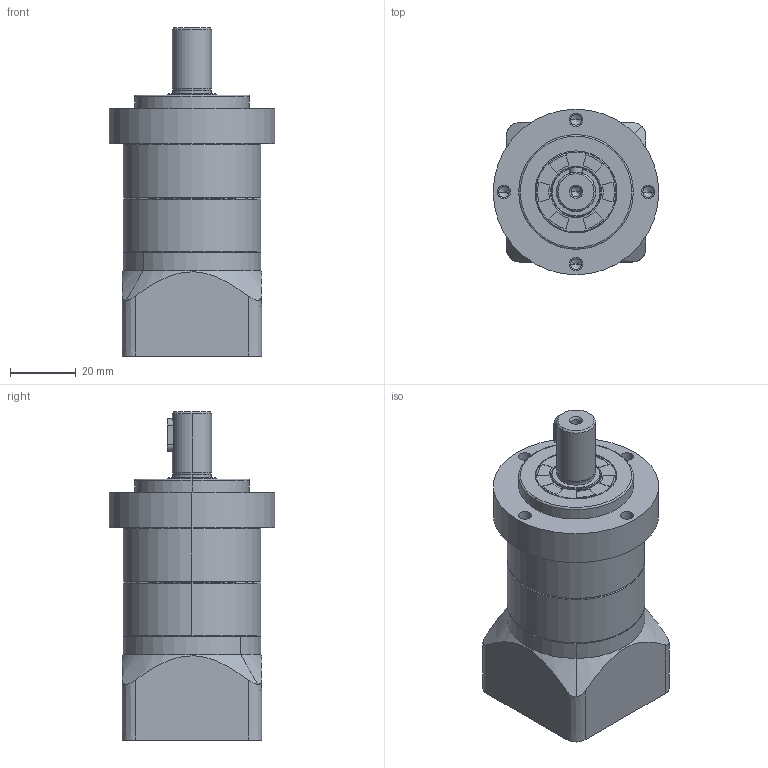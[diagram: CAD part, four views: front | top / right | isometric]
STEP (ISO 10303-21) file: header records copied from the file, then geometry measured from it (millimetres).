
FILE_DESCRIPTION (( 'STEP AP203' ), '1' );
FILE_NAME ('NA42-L2(8-30-45-M3).STEP', '2022-02-25T04:14:39', ( '' ), ( '' ), 'SwSTEP 2.0', 'SolidWorks 2016', '' );
FILE_SCHEMA (( 'CONFIG_CONTROL_DESIGN' ));
Length unit declared in the file: millimetre
Products named in the file (8): SN42; SN42-(30-45-M3); SN42-(12x20-4x10); NA42-(35x4-44-M4); NA42-L2(8-30-45-M3); SN42-(8); SN42-15x25x4; SN42-26x14x11-M4
Assembly tree (8 placements, depth 2):
  NA42-L2(8-30-45-M3)
    NA42-(35x4-44-M4)
    SN42-15x25x4
    SN42-(12x20-4x10)
    SN42  x2
    SN42-(30-45-M3)
    SN42-(8)
    SN42-26x14x11-M4
Bounding box: 50.5 x 50.5 x 100.1 mm (x, y, z)
Volume: 104993.7 mm3; surface area: 39555.8 mm2
Topology: 8 solids, 11 shells, 414 faces, 998 edges, 611 vertices
Faces by surface type: cylinder 202, plane 91, cone 82, bspline 37, torus 2
Entity records: 24073 total; most frequent: CARTESIAN_POINT 14425, ORIENTED_EDGE 1864, DIRECTION 1779, EDGE_CURVE 934, AXIS2_PLACEMENT_3D 703, VERTEX_POINT 587, EDGE_LOOP 456, ADVANCED_FACE 398
